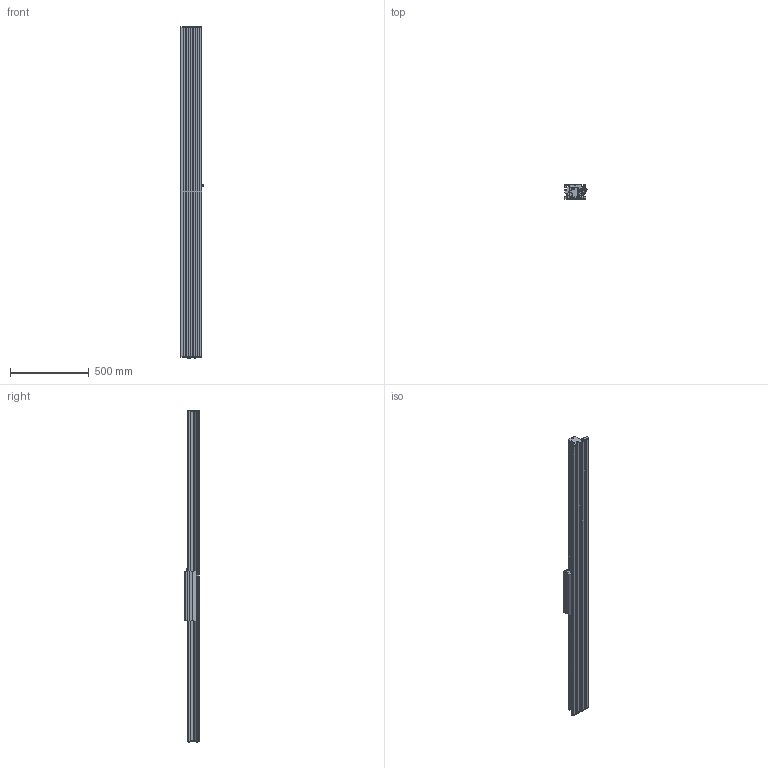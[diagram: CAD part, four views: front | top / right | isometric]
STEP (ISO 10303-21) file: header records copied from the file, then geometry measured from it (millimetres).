
FILE_DESCRIPTION (( 'STEP AP214' ), '1' );
FILE_NAME ('SINADRIVES Linear motor stage MLL20400XS-XX-1-0-ST-00-02100.STEP', '2015-07-06T11:46:41', ( 'Tecnico' ), ( '' ), 'SwSTEP 2.0', 'SolidWorks 2009', '' );
FILE_SCHEMA (( 'AUTOMOTIVE_DESIGN' ));
Length unit declared in the file: millimetre
Products named in the file (7): SINADRIVES PROFILE MLL2XXXX-2084; SINADRIVES CARRIAGE MLL20400XS-1; CARRIAGE MLL20400; Connector power+signal Y-tec 45; SINADRIVES ENDBLOCK MLL2; SINADRIVES ENDBLOCK MLL2-2; SINADRIVES Linear motor stage MLL20400XS-XX-1-0-ST-00-02100
Assembly tree (6 placements, depth 3):
  SINADRIVES Linear motor stage MLL20400XS-XX-1-0-ST-00-02100
    SINADRIVES ENDBLOCK MLL2
    SINADRIVES ENDBLOCK MLL2-2
    SINADRIVES CARRIAGE MLL20400XS-1
      CARRIAGE MLL20400
      Connector power+signal Y-tec 45
    SINADRIVES PROFILE MLL2XXXX-2084
Bounding box: 144.43 x 91 x 2108.8 mm (x, y, z)
Volume: 10133849.7 mm3; surface area: 1741789.2 mm2
Topology: 2 solids, 42 shells, 950 faces, 2640 edges, 1730 vertices
Faces by surface type: plane 445, cylinder 302, bspline 79, cone 70, torus 42, sphere 12
Entity records: 40587 total; most frequent: CARTESIAN_POINT 8656, ORIENTED_EDGE 5024, DIRECTION 4947, EDGE_CURVE 2622, AXIS2_PLACEMENT_3D 1781, VERTEX_POINT 1730, LINE 1385, VECTOR 1385
